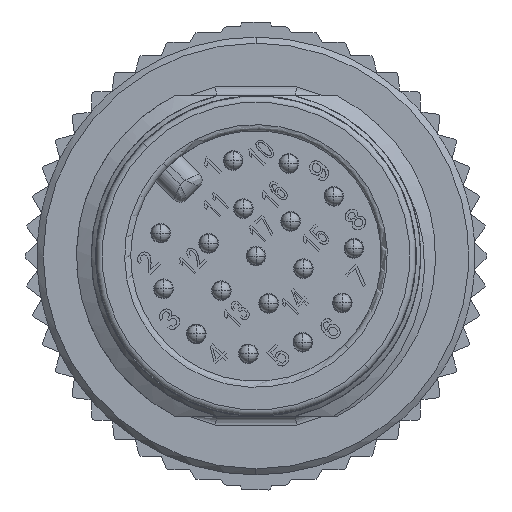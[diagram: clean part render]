
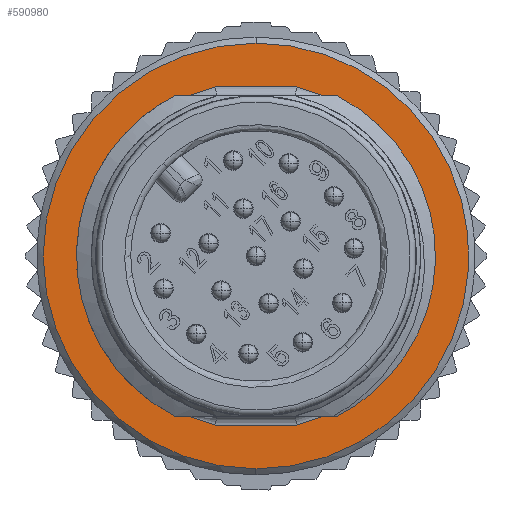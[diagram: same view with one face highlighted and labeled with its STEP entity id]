
A CAD part, left-side view. The second image highlights one B-rep face of the part: STEP entity #590980.
In plain terms, the highlighted planar face has unit normal (-1, 0, 0).
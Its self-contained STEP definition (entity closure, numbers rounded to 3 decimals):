
#426510=CARTESIAN_POINT('',(8.,-3.011,
-4.909));
#426520=VERTEX_POINT('',#426510);
#426550=CARTESIAN_POINT('',(8.,0.,0.));
#426560=DIRECTION('',(1.,0.,0.));
#426570=DIRECTION('',(0.,-0.523,-0.852));
#426580=AXIS2_PLACEMENT_3D('',#426550,#426560,#426570);
#426590=CIRCLE('',#426580,5.759);
#426600=CARTESIAN_POINT('',(8.,4.909,
3.011));
#426610=VERTEX_POINT('',#426600);
#426620=EDGE_CURVE('',#426520,#426610,#426590,.T.);
#589470=CARTESIAN_POINT('',(8.,3.011,
4.909));
#589480=VERTEX_POINT('',#589470);
#589530=CARTESIAN_POINT('',(8.,-15.037,
22.957));
#589540=DIRECTION('',(0.,0.707,-0.707));
#589550=VECTOR('',#589540,1.);
#589560=LINE('',#589530,#589550);
#589570=EDGE_CURVE('',#589480,#426610,#589560,.T.);
#589680=CARTESIAN_POINT('',(8.,0.,0.));
#589690=DIRECTION('',(1.,0.,0.));
#589700=DIRECTION('',(0.,0.523,0.852));
#589710=AXIS2_PLACEMENT_3D('',#589680,#589690,#589700);
#589720=CIRCLE('',#589710,5.759);
#589730=CARTESIAN_POINT('',(8.,-4.909,
-3.011));
#589740=VERTEX_POINT('',#589730);
#589750=EDGE_CURVE('',#589480,#589740,#589720,.T.);
#590130=CARTESIAN_POINT('',(8.,15.037,
-22.957));
#590140=DIRECTION('',(0.,-0.707,0.707));
#590150=VECTOR('',#590140,1.);
#590160=LINE('',#590130,#590150);
#590170=EDGE_CURVE('',#426520,#589740,#590160,.T.);
#590680=CARTESIAN_POINT('',(8.,0.,
9.589));
#590690=DIRECTION('',(-1.,0.,0.));
#590700=DIRECTION('',(0.,-0.707,-0.707));
#590710=AXIS2_PLACEMENT_3D('',#590680,#590690,#590700);
#590720=PLANE('',#590710);
#590730=CARTESIAN_POINT('',(8.,0.,
0.));
#590740=DIRECTION('',(-1.,0.,0.));
#590750=DIRECTION('',(0.,-0.75,0.661));
#590760=AXIS2_PLACEMENT_3D('',#590730,#590740,#590750);
#590770=CIRCLE('',#590760,7.05);
#590780=CARTESIAN_POINT('',(8.,4.985,
4.985));
#590790=VERTEX_POINT('',#590780);
#590800=CARTESIAN_POINT('',(8.,-4.985,
-4.985));
#590810=VERTEX_POINT('',#590800);
#590820=EDGE_CURVE('',#590790,#590810,#590770,.T.);
#590830=ORIENTED_EDGE('',*,*,#590820,.T.);
#590840=CARTESIAN_POINT('',(8.,-5.289,
4.662));
#590850=VERTEX_POINT('',#590840);
#590860=EDGE_CURVE('',#590850,#590790,#590770,.T.);
#590870=ORIENTED_EDGE('',*,*,#590860,.T.);
#590880=EDGE_CURVE('',#590810,#590850,#590770,.T.);
#590890=ORIENTED_EDGE('',*,*,#590880,.T.);
#590900=EDGE_LOOP('',(#590890,#590870,#590830));
#590910=FACE_OUTER_BOUND('',#590900,.T.);
#590920=ORIENTED_EDGE('',*,*,#589570,.F.);
#590930=ORIENTED_EDGE('',*,*,#426620,.T.);
#590940=ORIENTED_EDGE('',*,*,#590170,.F.);
#590950=ORIENTED_EDGE('',*,*,#589750,.T.);
#590960=EDGE_LOOP('',(#590950,#590940,#590930,#590920));
#590970=FACE_BOUND('',#590960,.T.);
#590980=ADVANCED_FACE('',(#590910,#590970),#590720,.T.);
